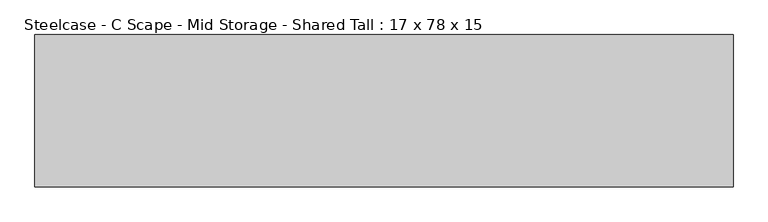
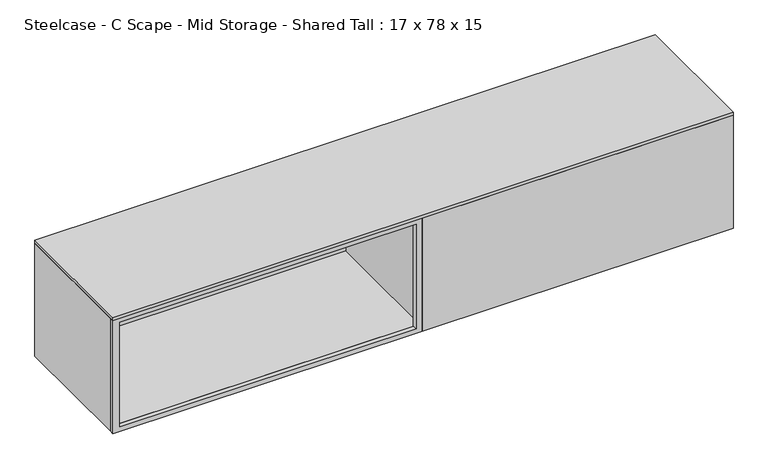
"""IFC4 building model written with IfcOpenShell, lengths in millimetres: furniture geometry, Steelcase - C Scape - Mid Storage - Shared Tall : 17 x 78 x 15."""

from ifc_helpers import new_model, si_unit, frame, origin, place, context, project, spatial, polyline, outline, extrude, faceted_brep, source, transform, mapped, element, save


def steelcase_c_scape_mid_storage_shared_tall_17_x_78_x_15_3bb32bea(model_context):
    return source(origin(), model_context, "Body", "SolidModel", [
        faceted_brep([(993.775, 215.9, 1219.279375), (0.0, 215.9, 1219.279375), (0.0, -201.2949309, 1219.279375), (21.9711633, -201.2949309, 1219.279375), (21.9711633, 206.3755809, 1219.279375), (987.425, 206.3755809, 1219.279375), (987.425, -215.9, 1219.279375), (1981.2, -215.9, 1219.279375), (1981.2, 206.3755809, 1219.279375), (1959.102, 206.3755809, 1219.279375), (1959.102, -201.2949309, 1219.279375), (993.775, -201.2949309, 1219.279375), (1981.2, 206.3755809, 838.2), (1981.2, -215.9, 838.2), (987.425, -215.9, 838.2), (987.425, -201.2949309, 838.2), (0.0, -201.2949309, 838.2), (0.0, 215.9, 838.2), (993.775, 215.9, 838.2), (993.775, 206.3755809, 838.2), (987.425, -201.2949309, 853.4399855), (21.9711633, -201.2949309, 853.4399855), (21.9711633, 206.3755809, 853.4399855), (987.425, 206.3755809, 853.4399855), (993.775, 206.3755809, 853.4399855), (1959.102, 206.3755809, 853.4399855), (1959.102, -201.2949309, 853.4399855), (993.775, -201.2949309, 853.4399855)], [[[0, 1, 2, 3, 4, 5, 6, 7, 8, 9, 10, 11]], [[12, 13, 14, 15, 16, 17, 18, 19]], [[1, 0, 18, 17]], [[2, 1, 17, 16]], [[3, 2, 16, 15, 20, 21]], [[4, 3, 21, 22]], [[5, 4, 22, 23]], [[6, 5, 23, 20, 15, 14]], [[7, 6, 14, 13]], [[8, 7, 13, 12]], [[9, 8, 12, 19, 24, 25]], [[10, 9, 25, 26]], [[11, 10, 26, 27]], [[0, 11, 27, 24, 19, 18]], [[21, 20, 23, 22]], [[25, 24, 27, 26]]]),
        extrude(outline(polyline([(1219.279375, 1981.2), (1219.279375, 993.775), (838.2, 993.775), (838.2, 1981.2), (1219.279375, 1981.2)]), holes=[polyline([(1205.8427824, 1959.102), (853.4399855, 1959.102), (853.4399855, 1012.698), (1205.8427824, 1012.698), (1205.8427824, 1959.102)])]), frame((0.0, 206.3755809, 0.0), z_axis=(0.0, 1.0, 0.0), x_axis=(0.0, 0.0, 1.0)), (0.0, 0.0, 1.0), 9.5244191),
        extrude(outline(polyline([(1219.279375, 987.425), (1219.279375, 0.0), (838.2, 0.0), (838.2, 987.425), (1219.279375, 987.425)]), holes=[polyline([(1205.8427824, 968.502), (853.4399855, 968.502), (853.4399855, 21.9711633), (1205.8427824, 21.9711633), (1205.8427824, 968.502)])]), frame((0.0, -215.9, 0.0), z_axis=(0.0, 1.0, 0.0), x_axis=(0.0, 0.0, 1.0)), (0.0, 0.0, 1.0), 14.6050691),
        extrude(outline(polyline([(1981.2, -215.9), (0.0, -215.9), (0.0, 215.9), (1981.2, 215.9), (1981.2, -215.9)])), frame((0.0, 0.0, 1219.279375), z_axis=(0.0, 0.0, 1.0), x_axis=(1.0, 0.0, 0.0)), (0.0, 0.0, 1.0), 10.080625),
    ])


if __name__ == "__main__":
    model = new_model("IFC4")
    model_context = context("Model", 3, world=origin())
    ifc_project = project(units=[si_unit("LENGTHUNIT", "METRE", prefix="MILLI")], contexts=[model_context])
    site = spatial("IfcSite", under=ifc_project)
    building = spatial("IfcBuilding", under=site)
    placement = place(None, origin())
    steelcase_c_scape_mid_storage_shared_tall_17_x_78_x_15_shape = steelcase_c_scape_mid_storage_shared_tall_17_x_78_x_15_3bb32bea(model_context)
    element("IfcFurniture", 1, ObjectType="Steelcase - C Scape - Mid Storage - Shared Tall : 17 x 78 x 15", at=placement, inside=building, context=model_context, shape_type="MappedRepresentation", body=[
        mapped(steelcase_c_scape_mid_storage_shared_tall_17_x_78_x_15_shape, transform((0.0, 0.0, 0.0), x_axis=(1.0, 0.0, 0.0), y_axis=(0.0, 1.0, 0.0), z_axis=(0.0, 0.0, 1.0))),
    ])
    save(model, "model.ifc")
